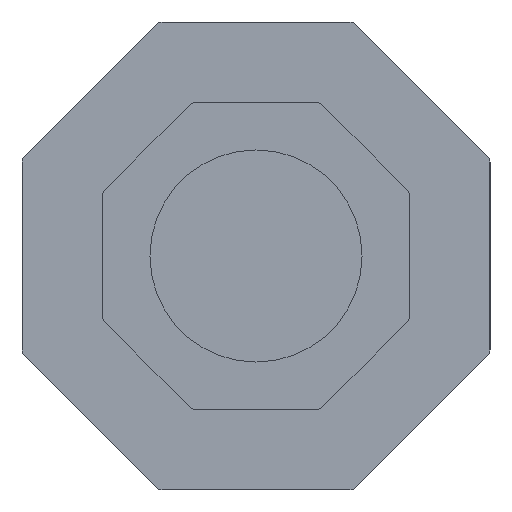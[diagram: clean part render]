
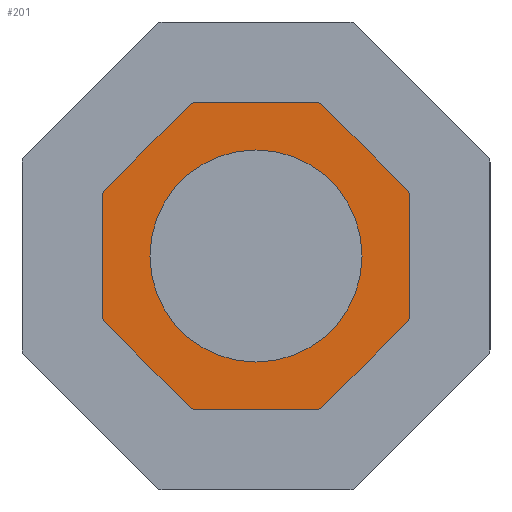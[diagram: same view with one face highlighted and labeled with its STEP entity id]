
A CAD part, left-side view. The second image highlights one B-rep face of the part: STEP entity #201.
In plain terms, the highlighted planar face has unit normal (-1, 0, 0).
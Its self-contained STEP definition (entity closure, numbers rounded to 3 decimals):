
#201=ADVANCED_FACE('',(#1204,#1206),#1208,.T.);
#1204=FACE_BOUND('',#1205,.T.);
#1205=EDGE_LOOP('',(#1988,#1989,#1990,#1991,#1992,#1993,#1994,#1995,#1996,#1997,
#1998,#1999,#2000,#2001,#2002,#2003));
#1206=FACE_BOUND('',#1207,.T.);
#1207=EDGE_LOOP('',(#2004));
#1208=PLANE('',#1209);
#1209=AXIS2_PLACEMENT_3D('',#1210,#1211,#1212);
#1210=CARTESIAN_POINT('',(2999.071,1595.254,156.411));
#1211=DIRECTION('',(-1.,0.,0.));
#1212=DIRECTION('',(0.,0.,1.));
#1988=ORIENTED_EDGE('',*,*,#2538,.F.);
#1989=ORIENTED_EDGE('',*,*,#2585,.T.);
#1990=ORIENTED_EDGE('',*,*,#2558,.F.);
#1991=ORIENTED_EDGE('',*,*,#2564,.T.);
#1992=ORIENTED_EDGE('',*,*,#2571,.F.);
#1993=ORIENTED_EDGE('',*,*,#2576,.T.);
#1994=ORIENTED_EDGE('',*,*,#2577,.F.);
#1995=ORIENTED_EDGE('',*,*,#2582,.T.);
#1996=ORIENTED_EDGE('',*,*,#2565,.F.);
#1997=ORIENTED_EDGE('',*,*,#2569,.T.);
#1998=ORIENTED_EDGE('',*,*,#2555,.F.);
#1999=ORIENTED_EDGE('',*,*,#2552,.T.);
#2000=ORIENTED_EDGE('',*,*,#2548,.F.);
#2001=ORIENTED_EDGE('',*,*,#2586,.T.);
#2002=ORIENTED_EDGE('',*,*,#2545,.F.);
#2003=ORIENTED_EDGE('',*,*,#2542,.T.);
#2004=ORIENTED_EDGE('',*,*,#2581,.T.);
#2538=EDGE_CURVE('',#2846,#2847,#2848,.T.);
#2542=EDGE_CURVE('',#2854,#2847,#2855,.T.);
#2545=EDGE_CURVE('',#2854,#2859,#2860,.T.);
#2548=EDGE_CURVE('',#2864,#2865,#2866,.T.);
#2552=EDGE_CURVE('',#2872,#2865,#2873,.T.);
#2555=EDGE_CURVE('',#2872,#2877,#2878,.T.);
#2558=EDGE_CURVE('',#2882,#2883,#2884,.T.);
#2564=EDGE_CURVE('',#2882,#2892,#2894,.T.);
#2565=EDGE_CURVE('',#2895,#2896,#2897,.T.);
#2569=EDGE_CURVE('',#2895,#2877,#2903,.T.);
#2571=EDGE_CURVE('',#2905,#2892,#2906,.T.);
#2576=EDGE_CURVE('',#2905,#2912,#2914,.T.);
#2577=EDGE_CURVE('',#2915,#2912,#2916,.T.);
#2581=EDGE_CURVE('',#2922,#2922,#2923,.T.);
#2582=EDGE_CURVE('',#2915,#2896,#2924,.T.);
#2585=EDGE_CURVE('',#2846,#2883,#2927,.T.);
#2586=EDGE_CURVE('',#2864,#2859,#2928,.T.);
#2846=VERTEX_POINT('',#3366);
#2847=VERTEX_POINT('',#3367);
#2848=CIRCLE('',#3368,1.);
#2854=VERTEX_POINT('',#3384);
#2855=LINE('',#3385,#3386);
#2859=VERTEX_POINT('',#3395);
#2860=CIRCLE('',#3396,1.);
#2864=VERTEX_POINT('',#3408);
#2865=VERTEX_POINT('',#3409);
#2866=CIRCLE('',#3410,1.);
#2872=VERTEX_POINT('',#3426);
#2873=LINE('',#3427,#3428);
#2877=VERTEX_POINT('',#3437);
#2878=CIRCLE('',#3438,1.);
#2882=VERTEX_POINT('',#3450);
#2883=VERTEX_POINT('',#3451);
#2884=CIRCLE('',#3452,1.);
#2892=VERTEX_POINT('',#3472);
#2894=LINE('',#3476,#3477);
#2895=VERTEX_POINT('',#3479);
#2896=VERTEX_POINT('',#3480);
#2897=CIRCLE('',#3481,1.);
#2903=LINE('',#3497,#3498);
#2905=VERTEX_POINT('',#3503);
#2906=CIRCLE('',#3504,1.);
#2912=VERTEX_POINT('',#3520);
#2914=LINE('',#3524,#3525);
#2915=VERTEX_POINT('',#3527);
#2916=CIRCLE('',#3528,1.);
#2922=VERTEX_POINT('',#3545);
#2923=CIRCLE('',#3546,14.5);
#2924=LINE('',#3550,#3551);
#2927=LINE('',#3559,#3560);
#2928=LINE('',#3562,#3563);
#3366=CARTESIAN_POINT('',(2999.071,1574.547,165.402));
#3367=CARTESIAN_POINT('',(2999.071,1574.254,164.695));
#3368=AXIS2_PLACEMENT_3D('',#3369,#3370,#3371);
#3369=CARTESIAN_POINT('',(2999.071,1575.254,164.695));
#3370=DIRECTION('',(1.,0.,0.));
#3371=DIRECTION('',(0.,-0.707,0.707));
#3384=CARTESIAN_POINT('',(2999.071,1574.254,148.127));
#3385=CARTESIAN_POINT('',(2999.071,1574.254,148.127));
#3386=VECTOR('',#3387,1.);
#3387=DIRECTION('',(0.,0.,1.));
#3395=CARTESIAN_POINT('',(2999.071,1574.547,147.42));
#3396=AXIS2_PLACEMENT_3D('',#3397,#3398,#3399);
#3397=CARTESIAN_POINT('',(2999.071,1575.254,148.127));
#3398=DIRECTION('',(1.,0.,0.));
#3399=DIRECTION('',(0.,-1.,0.));
#3408=CARTESIAN_POINT('',(2999.071,1586.262,135.704));
#3409=CARTESIAN_POINT('',(2999.071,1586.969,135.411));
#3410=AXIS2_PLACEMENT_3D('',#3411,#3412,#3413);
#3411=CARTESIAN_POINT('',(2999.071,1586.969,136.411));
#3412=DIRECTION('',(1.,0.,0.));
#3413=DIRECTION('',(0.,-0.707,-0.707));
#3426=CARTESIAN_POINT('',(2999.071,1603.538,135.411));
#3427=CARTESIAN_POINT('',(2999.071,1603.538,135.411));
#3428=VECTOR('',#3429,1.);
#3429=DIRECTION('',(0.,-1.,0.));
#3437=CARTESIAN_POINT('',(2999.071,1604.245,135.704));
#3438=AXIS2_PLACEMENT_3D('',#3439,#3440,#3441);
#3439=CARTESIAN_POINT('',(2999.071,1603.538,136.411));
#3440=DIRECTION('',(1.,0.,0.));
#3441=DIRECTION('',(0.,0.,-1.));
#3450=CARTESIAN_POINT('',(2999.071,1586.969,177.411));
#3451=CARTESIAN_POINT('',(2999.071,1586.262,177.118));
#3452=AXIS2_PLACEMENT_3D('',#3453,#3454,#3455);
#3453=CARTESIAN_POINT('',(2999.071,1586.969,176.411));
#3454=DIRECTION('',(1.,0.,0.));
#3455=DIRECTION('',(0.,0.,1.));
#3472=CARTESIAN_POINT('',(2999.071,1603.538,177.411));
#3476=CARTESIAN_POINT('',(2999.071,1586.969,177.411));
#3477=VECTOR('',#3478,1.);
#3478=DIRECTION('',(0.,1.,0.));
#3479=CARTESIAN_POINT('',(2999.071,1615.961,147.42));
#3480=CARTESIAN_POINT('',(2999.071,1616.254,148.127));
#3481=AXIS2_PLACEMENT_3D('',#3482,#3483,#3484);
#3482=CARTESIAN_POINT('',(2999.071,1615.254,148.127));
#3483=DIRECTION('',(1.,0.,0.));
#3484=DIRECTION('',(0.,0.707,-0.707));
#3497=CARTESIAN_POINT('',(2999.071,1615.961,147.42));
#3498=VECTOR('',#3499,1.);
#3499=DIRECTION('',(0.,-0.707,-0.707));
#3503=CARTESIAN_POINT('',(2999.071,1604.245,177.118));
#3504=AXIS2_PLACEMENT_3D('',#3505,#3506,#3507);
#3505=CARTESIAN_POINT('',(2999.071,1603.538,176.411));
#3506=DIRECTION('',(1.,0.,0.));
#3507=DIRECTION('',(0.,0.707,0.707));
#3520=CARTESIAN_POINT('',(2999.071,1615.961,165.402));
#3524=CARTESIAN_POINT('',(2999.071,1604.245,177.118));
#3525=VECTOR('',#3526,1.);
#3526=DIRECTION('',(0.,0.707,-0.707));
#3527=CARTESIAN_POINT('',(2999.071,1616.254,164.695));
#3528=AXIS2_PLACEMENT_3D('',#3529,#3530,#3531);
#3529=CARTESIAN_POINT('',(2999.071,1615.254,164.695));
#3530=DIRECTION('',(1.,0.,0.));
#3531=DIRECTION('',(0.,1.,0.));
#3545=CARTESIAN_POINT('',(2999.071,1580.754,156.411));
#3546=AXIS2_PLACEMENT_3D('',#3547,#3548,#3549);
#3547=CARTESIAN_POINT('',(2999.071,1595.254,156.411));
#3548=DIRECTION('',(1.,0.,0.));
#3549=DIRECTION('',(0.,-1.,0.));
#3550=CARTESIAN_POINT('',(2999.071,1616.254,164.695));
#3551=VECTOR('',#3552,1.);
#3552=DIRECTION('',(0.,0.,-1.));
#3559=CARTESIAN_POINT('',(2999.071,1574.547,165.402));
#3560=VECTOR('',#3561,1.);
#3561=DIRECTION('',(0.,0.707,0.707));
#3562=CARTESIAN_POINT('',(2999.071,1586.262,135.704));
#3563=VECTOR('',#3564,1.);
#3564=DIRECTION('',(0.,-0.707,0.707));
